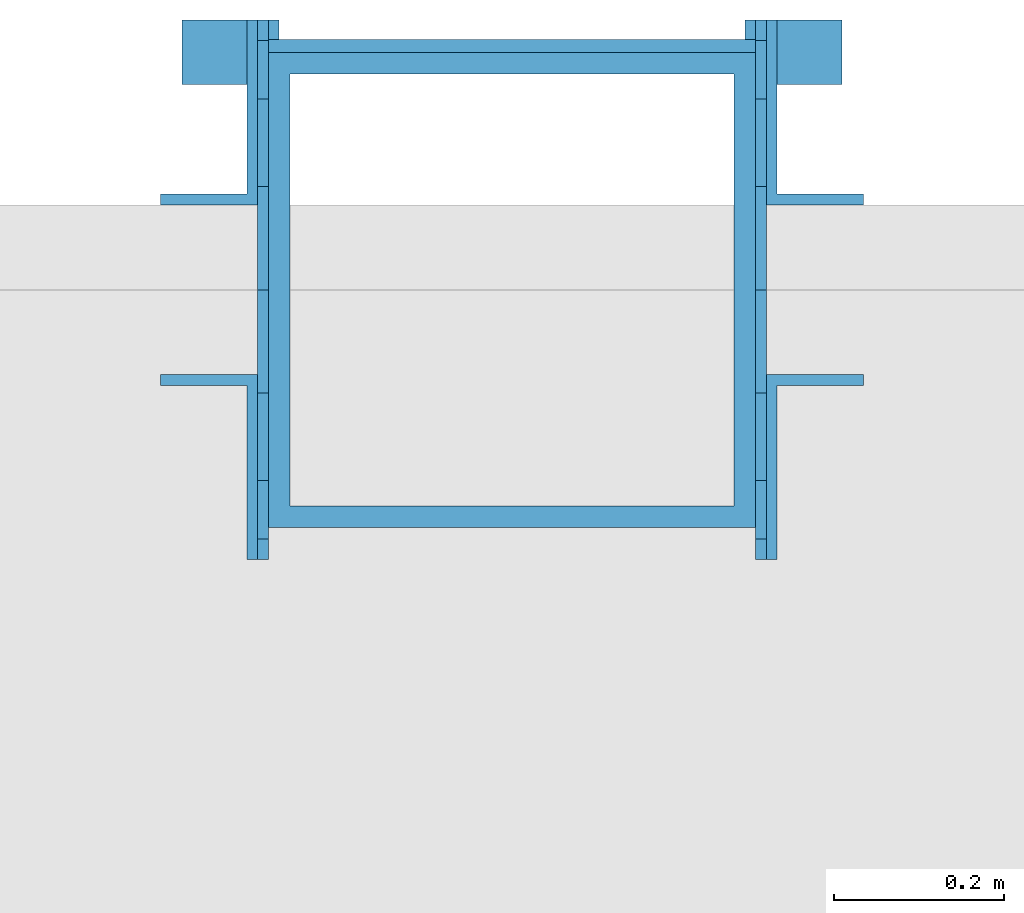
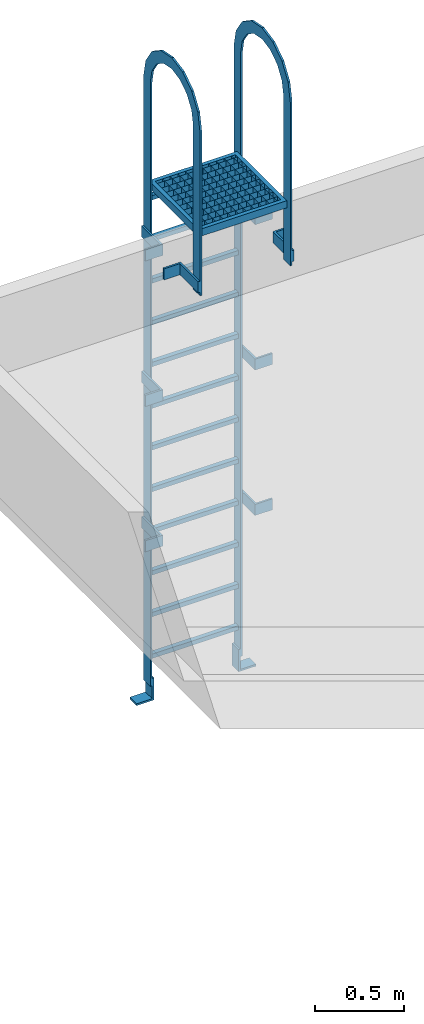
# One storey, part 2 of 3: 1 discrete accessory.
"""IFC2X3 building model written with IfcOpenShell, lengths in millimetres."""

from ifc_helpers import new_model, entity, si_unit, converted_unit, derived_unit, money_unit, direction, frame, origin_with_axes, place, context, subcontext, project, spatial, open_shell, faceted_brep, surface_model, type_object, element, save


model = new_model("IFC2X3")

# Units and contexts
model_context = context("Model", 3, precision=0.01, world=origin_with_axes(), true_north=direction((0.0, 1.0)))
body_context = subcontext(model_context, "Body", "Model", "MODEL_VIEW")
ifc_project = project(units=[si_unit("LENGTHUNIT", "METRE", prefix="MILLI"), si_unit("AREAUNIT", "SQUARE_METRE"), si_unit("VOLUMEUNIT", "CUBIC_METRE"), converted_unit("PLANEANGLEUNIT", "DEGREE", entity("IfcPlaneAngleMeasure", 0.0174532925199), si_unit("PLANEANGLEUNIT", "RADIAN"), dimensions=[0, 0, 0, 0, 0, 0, 0]), si_unit("SOLIDANGLEUNIT", "STERADIAN"), money_unit("EUR"), converted_unit("TIMEUNIT", "Year", entity("IfcTimeMeasure", 31556926.0), si_unit("TIMEUNIT", "SECOND"), dimensions=[0, 0, 1, 0, 0, 0, 0]), si_unit("MASSUNIT", "GRAM", prefix="KILO"), si_unit("THERMODYNAMICTEMPERATUREUNIT", "DEGREE_CELSIUS"), si_unit("LUMINOUSINTENSITYUNIT", "LUMEN"), si_unit("ENERGYUNIT", "JOULE", prefix="MEGA"), derived_unit("THERMALCONDUCTANCEUNIT", [(si_unit("POWERUNIT", "WATT"), 1), (si_unit("LENGTHUNIT", "METRE"), -1), (si_unit("THERMODYNAMICTEMPERATUREUNIT", "KELVIN"), -1)]), derived_unit("SPECIFICHEATCAPACITYUNIT", [(si_unit("ENERGYUNIT", "JOULE"), 1), (si_unit("MASSUNIT", "GRAM", prefix="KILO"), -1), (si_unit("THERMODYNAMICTEMPERATUREUNIT", "KELVIN"), -1)]), derived_unit("MASSDENSITYUNIT", [(si_unit("MASSUNIT", "GRAM", prefix="KILO"), 1), (si_unit("VOLUMEUNIT", "CUBIC_METRE"), -1)])], contexts=[model_context])

# Site, building, storey
site_placement = place(None, origin_with_axes())
site = spatial("IfcSite", under=ifc_project, at=site_placement, Name="Politse- ja Piirivalveameti ning Päästeameti ühishoone", CompositionType="ELEMENT")
building_placement = place(site_placement, origin_with_axes())
building = spatial("IfcBuilding", under=site, at=building_placement, Name="Politse- ja Piirivalveameti ning Päästeameti ühishoone", CompositionType="ELEMENT")
storey_placement = place(building_placement, frame((0.0, 0.0, 10600.0), z_axis=(0.0, 0.0, 1.0), x_axis=(1.0, 0.0, 0.0)))
storey = spatial("IfcBuildingStorey", under=building, at=storey_placement, Name="Korrus +9.900", CompositionType="ELEMENT", Elevation=10600.0)

# Discrete accessory
discrete_accessory_type = type_object("IfcDiscreteAccessoryType", Name="Vertical Ladder 23")
discrete_accessory_placement = place(storey_placement, frame((16736.1913113, 11880.0198611, -1912.37763967), z_axis=(0.0, 0.0, 1.0), x_axis=(-1.0, 0.0, 0.0)))
element("IfcDiscreteAccessory", 1, at=discrete_accessory_placement, inside=storey, type_object=discrete_accessory_type, Name="VÄLISREDEL 3", context=body_context, shape_type="SurfaceModel", body=[
    faceted_brep([(-287.3, -180.0, 3503.29822883), (287.3, -180.0, 3503.29822883), (287.3, -180.0, 3553.29822883), (-287.3, -180.0, 3553.29822883), (-287.3, 380.0, 3503.29822883), (287.3, 380.0, 3503.29822883), (-261.9, -154.6, 3503.29822883), (261.9, -154.6, 3503.29822883), (261.9, 354.6, 3503.29822883), (-261.9, 354.6, 3503.29822883), (287.3, 380.0, 3553.29822883), (-287.3, 380.0, 3553.29822883), (-261.9, -154.6, 3553.29822883), (-261.9, 354.6, 3553.29822883), (261.9, 354.6, 3553.29822883), (261.9, -154.6, 3553.29822883)], [[[0, 1, 2, 3]], [[0, 4, 5, 1], [6, 7, 8, 9]], [[1, 5, 10, 2]], [[3, 2, 10, 11], [12, 13, 14, 15]], [[4, 0, 3, 11]], [[5, 4, 11, 10]], [[7, 6, 12, 15]], [[8, 7, 15, 14]], [[9, 8, 14, 13]], [[6, 9, 13, 12]]]),
    surface_model("IfcShellBasedSurfaceModel", [(-261.9, -130.0, 3553.29822883), (-261.9, -130.0, 3503.29822883), (261.9, -130.0, 3503.29822883), (261.9, -130.0, 3553.29822883)], [open_shell([[[0, 1, 2, 3]]])]),
    surface_model("IfcShellBasedSurfaceModel", [(-261.9, -80.0, 3553.29822883), (-261.9, -80.0, 3503.29822883), (261.9, -80.0, 3503.29822883), (261.9, -80.0, 3553.29822883)], [open_shell([[[0, 1, 2, 3]]])]),
    surface_model("IfcShellBasedSurfaceModel", [(-261.9, -30.0, 3553.29822883), (-261.9, -30.0, 3503.29822883), (261.9, -30.0, 3503.29822883), (261.9, -30.0, 3553.29822883)], [open_shell([[[0, 1, 2, 3]]])]),
    surface_model("IfcShellBasedSurfaceModel", [(-261.9, 20.0, 3553.29822883), (-261.9, 20.0, 3503.29822883), (261.9, 20.0, 3503.29822883), (261.9, 20.0, 3553.29822883)], [open_shell([[[0, 1, 2, 3]]])]),
    surface_model("IfcShellBasedSurfaceModel", [(-261.9, 70.0, 3553.29822883), (-261.9, 70.0, 3503.29822883), (261.9, 70.0, 3503.29822883), (261.9, 70.0, 3553.29822883)], [open_shell([[[0, 1, 2, 3]]])]),
    surface_model("IfcShellBasedSurfaceModel", [(-261.9, 120.0, 3553.29822883), (-261.9, 120.0, 3503.29822883), (261.9, 120.0, 3503.29822883), (261.9, 120.0, 3553.29822883)], [open_shell([[[0, 1, 2, 3]]])]),
    surface_model("IfcShellBasedSurfaceModel", [(-261.9, 170.0, 3553.29822883), (-261.9, 170.0, 3503.29822883), (261.9, 170.0, 3503.29822883), (261.9, 170.0, 3553.29822883)], [open_shell([[[0, 1, 2, 3]]])]),
    surface_model("IfcShellBasedSurfaceModel", [(-261.9, 220.0, 3553.29822883), (-261.9, 220.0, 3503.29822883), (261.9, 220.0, 3503.29822883), (261.9, 220.0, 3553.29822883)], [open_shell([[[0, 1, 2, 3]]])]),
    surface_model("IfcShellBasedSurfaceModel", [(-261.9, 270.0, 3553.29822883), (-261.9, 270.0, 3503.29822883), (261.9, 270.0, 3503.29822883), (261.9, 270.0, 3553.29822883)], [open_shell([[[0, 1, 2, 3]]])]),
    surface_model("IfcShellBasedSurfaceModel", [(-261.9, 320.0, 3553.29822883), (-261.9, 320.0, 3503.29822883), (261.9, 320.0, 3503.29822883), (261.9, 320.0, 3553.29822883)], [open_shell([[[0, 1, 2, 3]]])]),
    surface_model("IfcShellBasedSurfaceModel", [(262.7, -154.6, 3553.29822883), (262.7, -154.6, 3503.29822883), (262.7, 354.6, 3503.29822883), (262.7, 354.6, 3553.29822883)], [open_shell([[[0, 1, 2, 3]]])]),
    surface_model("IfcShellBasedSurfaceModel", [(212.7, -154.6, 3553.29822883), (212.7, -154.6, 3503.29822883), (212.7, 354.6, 3503.29822883), (212.7, 354.6, 3553.29822883)], [open_shell([[[0, 1, 2, 3]]])]),
    surface_model("IfcShellBasedSurfaceModel", [(162.7, -154.6, 3553.29822883), (162.7, -154.6, 3503.29822883), (162.7, 354.6, 3503.29822883), (162.7, 354.6, 3553.29822883)], [open_shell([[[0, 1, 2, 3]]])]),
    surface_model("IfcShellBasedSurfaceModel", [(112.7, -154.6, 3553.29822883), (112.7, -154.6, 3503.29822883), (112.7, 354.6, 3503.29822883), (112.7, 354.6, 3553.29822883)], [open_shell([[[0, 1, 2, 3]]])]),
    surface_model("IfcShellBasedSurfaceModel", [(62.7, -154.6, 3553.29822883), (62.7, -154.6, 3503.29822883), (62.7, 354.6, 3503.29822883), (62.7, 354.6, 3553.29822883)], [open_shell([[[0, 1, 2, 3]]])]),
    surface_model("IfcShellBasedSurfaceModel", [(12.7, -154.6, 3553.29822883), (12.7, -154.6, 3503.29822883), (12.7, 354.6, 3503.29822883), (12.7, 354.6, 3553.29822883)], [open_shell([[[0, 1, 2, 3]]])]),
    surface_model("IfcShellBasedSurfaceModel", [(-37.3, -154.6, 3553.29822883), (-37.3, -154.6, 3503.29822883), (-37.3, 354.6, 3503.29822883), (-37.3, 354.6, 3553.29822883)], [open_shell([[[0, 1, 2, 3]]])]),
    surface_model("IfcShellBasedSurfaceModel", [(-87.3, -154.6, 3553.29822883), (-87.3, -154.6, 3503.29822883), (-87.3, 354.6, 3503.29822883), (-87.3, 354.6, 3553.29822883)], [open_shell([[[0, 1, 2, 3]]])]),
    surface_model("IfcShellBasedSurfaceModel", [(-137.3, -154.6, 3553.29822883), (-137.3, -154.6, 3503.29822883), (-137.3, 354.6, 3503.29822883), (-137.3, 354.6, 3553.29822883)], [open_shell([[[0, 1, 2, 3]]])]),
    surface_model("IfcShellBasedSurfaceModel", [(-187.3, -154.6, 3553.29822883), (-187.3, -154.6, 3503.29822883), (-187.3, 354.6, 3503.29822883), (-187.3, 354.6, 3553.29822883)], [open_shell([[[0, 1, 2, 3]]])]),
    surface_model("IfcShellBasedSurfaceModel", [(-237.3, -154.6, 3553.29822883), (-237.3, -154.6, 3503.29822883), (-237.3, 354.6, 3503.29822883), (-237.3, 354.6, 3553.29822883)], [open_shell([[[0, 1, 2, 3]]])]),
    faceted_brep([(-388.9, -141.9, 12.7), (-388.9, -141.9, 0.0), (-388.9, -218.1, 0.0), (-388.9, -218.1, 12.7), (-287.3, -141.9, 12.7), (-287.3, -141.9, 152.4), (-274.6, -141.9, 152.4), (-274.6, -141.9, 0.0), (-274.6, -218.1, 0.0), (-274.6, -218.1, 152.4), (-287.3, -218.1, 152.4), (-287.3, -218.1, 12.7)], [[[0, 1, 2, 3]], [[0, 4, 5, 6, 7, 1]], [[1, 7, 8, 2]], [[3, 2, 8, 9, 10, 11]], [[4, 0, 3, 11]], [[5, 4, 11, 10]], [[6, 5, 10, 9]], [[7, 6, 9, 8]]]),
    faceted_brep([(388.9, -141.9, 12.7), (388.9, -218.1, 12.7), (388.9, -218.1, 0.0), (388.9, -141.9, 0.0), (287.3, -141.9, 12.7), (287.3, -218.1, 12.7), (287.3, -218.1, 152.4), (274.6, -218.1, 152.4), (274.6, -218.1, 0.0), (274.6, -141.9, 0.0), (274.6, -141.9, 152.4), (287.3, -141.9, 152.4)], [[[0, 1, 2, 3]], [[4, 5, 1, 0]], [[1, 5, 6, 7, 8, 2]], [[3, 2, 8, 9]], [[0, 3, 9, 10, 11, 4]], [[11, 6, 5, 4]], [[10, 7, 6, 11]], [[9, 8, 7, 10]]]),
    faceted_brep([(-312.7, 212.7, 3151.69822883), (-312.7, 212.7, 3227.89822883), (-312.7, 418.1, 3227.89822883), (-312.7, 418.1, 3151.69822883), (-414.3, 212.7, 3151.69822883), (-414.3, 212.7, 3227.89822883), (-414.3, 200.0, 3227.89822883), (-300.0, 200.0, 3227.89822883), (-300.0, 418.1, 3227.89822883), (-300.0, 418.1, 3151.69822883), (-300.0, 200.0, 3151.69822883), (-414.3, 200.0, 3151.69822883)], [[[0, 1, 2, 3]], [[4, 5, 1, 0]], [[1, 5, 6, 7, 8, 2]], [[3, 2, 8, 9]], [[0, 3, 9, 10, 11, 4]], [[11, 6, 5, 4]], [[10, 7, 6, 11]], [[9, 8, 7, 10]]]),
    faceted_brep([(312.7, 212.7, 3151.69822883), (312.7, 418.1, 3151.69822883), (312.7, 418.1, 3227.89822883), (312.7, 212.7, 3227.89822883), (414.3, 212.7, 3151.69822883), (414.3, 200.0, 3151.69822883), (300.0, 200.0, 3151.69822883), (300.0, 418.1, 3151.69822883), (300.0, 418.1, 3227.89822883), (300.0, 200.0, 3227.89822883), (414.3, 200.0, 3227.89822883), (414.3, 212.7, 3227.89822883)], [[[0, 1, 2, 3]], [[0, 4, 5, 6, 7, 1]], [[1, 7, 8, 2]], [[3, 2, 8, 9, 10, 11]], [[4, 0, 3, 11]], [[5, 4, 11, 10]], [[6, 5, 10, 9]], [[7, 6, 9, 8]]]),
    faceted_brep([(-312.7, 212.7, 3151.69822883), (-312.7, 212.7, 3227.89822883), (-312.7, 418.1, 3227.89822883), (-312.7, 418.1, 3151.69822883), (-414.3, 212.7, 3151.69822883), (-414.3, 212.7, 3227.89822883), (-414.3, 200.0, 3227.89822883), (-300.0, 200.0, 3227.89822883), (-300.0, 418.1, 3227.89822883), (-300.0, 418.1, 3151.69822883), (-300.0, 200.0, 3151.69822883), (-414.3, 200.0, 3151.69822883)], [[[0, 1, 2, 3]], [[4, 5, 1, 0]], [[1, 5, 6, 7, 8, 2]], [[3, 2, 8, 9]], [[0, 3, 9, 10, 11, 4]], [[11, 6, 5, 4]], [[10, 7, 6, 11]], [[9, 8, 7, 10]]]),
    faceted_brep([(312.7, 212.7, 3151.69822883), (312.7, 418.1, 3151.69822883), (312.7, 418.1, 3227.89822883), (312.7, 212.7, 3227.89822883), (414.3, 212.7, 3151.69822883), (414.3, 200.0, 3151.69822883), (300.0, 200.0, 3151.69822883), (300.0, 418.1, 3151.69822883), (300.0, 418.1, 3227.89822883), (300.0, 200.0, 3227.89822883), (414.3, 200.0, 3227.89822883), (414.3, 212.7, 3227.89822883)], [[[0, 1, 2, 3]], [[0, 4, 5, 6, 7, 1]], [[1, 7, 8, 2]], [[3, 2, 8, 9, 10, 11]], [[4, 0, 3, 11]], [[5, 4, 11, 10]], [[6, 5, 10, 9]], [[7, 6, 9, 8]]]),
    faceted_brep([(-312.7, -12.7, 1152.16607628), (-312.7, -218.1, 1152.16607628), (-312.7, -218.1, 1228.36607628), (-312.7, -12.7, 1228.36607628), (-414.3, -12.7, 1152.16607628), (-414.3, 0.0, 1152.16607628), (-300.0, 0.0, 1152.16607628), (-300.0, -218.1, 1152.16607628), (-300.0, -218.1, 1228.36607628), (-300.0, 0.0, 1228.36607628), (-414.3, 0.0, 1228.36607628), (-414.3, -12.7, 1228.36607628)], [[[0, 1, 2, 3]], [[0, 4, 5, 6, 7, 1]], [[1, 7, 8, 2]], [[3, 2, 8, 9, 10, 11]], [[4, 0, 3, 11]], [[5, 4, 11, 10]], [[6, 5, 10, 9]], [[7, 6, 9, 8]]]),
    faceted_brep([(312.7, -12.7, 1152.16607628), (312.7, -12.7, 1228.36607628), (312.7, -218.1, 1228.36607628), (312.7, -218.1, 1152.16607628), (414.3, -12.7, 1152.16607628), (414.3, -12.7, 1228.36607628), (414.3, 0.0, 1228.36607628), (300.0, 0.0, 1228.36607628), (300.0, -218.1, 1228.36607628), (300.0, -218.1, 1152.16607628), (300.0, 0.0, 1152.16607628), (414.3, 0.0, 1152.16607628)], [[[0, 1, 2, 3]], [[4, 5, 1, 0]], [[1, 5, 6, 7, 8, 2]], [[3, 2, 8, 9]], [[0, 3, 9, 10, 11, 4]], [[11, 6, 5, 4]], [[10, 7, 6, 11]], [[9, 8, 7, 10]]]),
    faceted_brep([(-312.7, -12.7, 2151.93215256), (-312.7, -218.1, 2151.93215256), (-312.7, -218.1, 2228.13215256), (-312.7, -12.7, 2228.13215256), (-414.3, -12.7, 2151.93215256), (-414.3, 0.0, 2151.93215256), (-300.0, 0.0, 2151.93215256), (-300.0, -218.1, 2151.93215256), (-300.0, -218.1, 2228.13215256), (-300.0, 0.0, 2228.13215256), (-414.3, 0.0, 2228.13215256), (-414.3, -12.7, 2228.13215256)], [[[0, 1, 2, 3]], [[0, 4, 5, 6, 7, 1]], [[1, 7, 8, 2]], [[3, 2, 8, 9, 10, 11]], [[4, 0, 3, 11]], [[5, 4, 11, 10]], [[6, 5, 10, 9]], [[7, 6, 9, 8]]]),
    faceted_brep([(312.7, -12.7, 2151.93215256), (312.7, -12.7, 2228.13215256), (312.7, -218.1, 2228.13215256), (312.7, -218.1, 2151.93215256), (414.3, -12.7, 2151.93215256), (414.3, -12.7, 2228.13215256), (414.3, 0.0, 2228.13215256), (300.0, 0.0, 2228.13215256), (300.0, -218.1, 2228.13215256), (300.0, -218.1, 2151.93215256), (300.0, 0.0, 2151.93215256), (414.3, 0.0, 2151.93215256)], [[[0, 1, 2, 3]], [[4, 5, 1, 0]], [[1, 5, 6, 7, 8, 2]], [[3, 2, 8, 9]], [[0, 3, 9, 10, 11, 4]], [[11, 6, 5, 4]], [[10, 7, 6, 11]], [[9, 8, 7, 10]]]),
    faceted_brep([(-312.7, -12.7, 3151.69822883), (-312.7, -218.1, 3151.69822883), (-312.7, -218.1, 3227.89822883), (-312.7, -12.7, 3227.89822883), (-414.3, -12.7, 3151.69822883), (-414.3, 0.0, 3151.69822883), (-300.0, 0.0, 3151.69822883), (-300.0, -218.1, 3151.69822883), (-300.0, -218.1, 3227.89822883), (-300.0, 0.0, 3227.89822883), (-414.3, 0.0, 3227.89822883), (-414.3, -12.7, 3227.89822883)], [[[0, 1, 2, 3]], [[0, 4, 5, 6, 7, 1]], [[1, 7, 8, 2]], [[3, 2, 8, 9, 10, 11]], [[4, 0, 3, 11]], [[5, 4, 11, 10]], [[6, 5, 10, 9]], [[7, 6, 9, 8]]]),
    faceted_brep([(312.7, -12.7, 3151.69822883), (312.7, -12.7, 3227.89822883), (312.7, -218.1, 3227.89822883), (312.7, -218.1, 3151.69822883), (414.3, -12.7, 3151.69822883), (414.3, -12.7, 3227.89822883), (414.3, 0.0, 3227.89822883), (300.0, 0.0, 3227.89822883), (300.0, -218.1, 3227.89822883), (300.0, -218.1, 3151.69822883), (300.0, 0.0, 3151.69822883), (414.3, 0.0, 3151.69822883)], [[[0, 1, 2, 3]], [[4, 5, 1, 0]], [[1, 5, 6, 7, 8, 2]], [[3, 2, 8, 9]], [[0, 3, 9, 10, 11, 4]], [[11, 6, 5, 4]], [[10, 7, 6, 11]], [[9, 8, 7, 10]]]),
    faceted_brep([(-287.3, -141.9, 101.6), (-287.3, -218.1, 101.6), (-300.0, -218.1, 101.6), (-300.0, -141.9, 101.6), (-287.3, -141.9, 4253.29822883), (-287.3, -123.486458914, 4345.86935112), (-287.3, -71.049130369, 4424.3473592), (-287.3, 7.42887771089, 4476.78468775), (-287.3, 100.0, 4495.19822883), (-287.3, 192.571122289, 4476.78468775), (-287.3, 271.049130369, 4424.3473592), (-287.3, 323.486458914, 4345.86935112), (-287.3, 341.9, 4253.29822883), (-287.3, 341.9, 3126.29822883), (-287.3, 418.1, 3126.29822883), (-287.3, 418.1, 4253.29822883), (-287.3, 393.886079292, 4375.02982867), (-287.3, 324.930667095, 4478.22889593), (-287.3, 221.731599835, 4547.18430813), (-287.3, 100.0, 4571.39822883), (-287.3, -21.7315998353, 4547.18430813), (-287.3, -124.930667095, 4478.22889593), (-287.3, -193.886079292, 4375.02982867), (-287.3, -218.1, 4253.29822883), (-300.0, -218.1, 4253.29822883), (-300.0, -193.886079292, 4375.02982867), (-300.0, -124.930667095, 4478.22889593), (-300.0, -21.7315998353, 4547.18430813), (-300.0, 100.0, 4571.39822883), (-300.0, 221.731599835, 4547.18430813), (-300.0, 324.930667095, 4478.22889593), (-300.0, 393.886079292, 4375.02982867), (-300.0, 418.1, 4253.29822883), (-300.0, 418.1, 3126.29822883), (-300.0, 341.9, 3126.29822883), (-300.0, 341.9, 4253.29822883), (-300.0, 323.486458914, 4345.86935112), (-300.0, 271.049130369, 4424.3473592), (-300.0, 192.571122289, 4476.78468775), (-300.0, 100.0, 4495.19822883), (-300.0, 7.42887771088, 4476.78468775), (-300.0, -71.049130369, 4424.3473592), (-300.0, -123.486458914, 4345.86935112), (-300.0, -141.9, 4253.29822883)], [[[0, 1, 2, 3]], [[0, 4, 5, 6, 7, 8, 9, 10, 11, 12, 13, 14, 15, 16, 17, 18, 19, 20, 21, 22, 23, 1]], [[1, 23, 24, 2]], [[3, 2, 24, 25, 26, 27, 28, 29, 30, 31, 32, 33, 34, 35, 36, 37, 38, 39, 40, 41, 42, 43]], [[4, 0, 3, 43]], [[5, 4, 43, 42]], [[6, 5, 42, 41]], [[7, 6, 41, 40]], [[8, 7, 40, 39]], [[9, 8, 39, 38]], [[10, 9, 38, 37]], [[11, 10, 37, 36]], [[12, 11, 36, 35]], [[13, 12, 35, 34]], [[14, 13, 34, 33]], [[15, 14, 33, 32]], [[16, 15, 32, 31]], [[17, 16, 31, 30]], [[18, 17, 30, 29]], [[19, 18, 29, 28]], [[20, 19, 28, 27]], [[21, 20, 27, 26]], [[22, 21, 26, 25]], [[23, 22, 25, 24]]]),
    faceted_brep([(300.0, -141.9, 101.6), (300.0, -218.1, 101.6), (287.3, -218.1, 101.6), (287.3, -141.9, 101.6), (300.0, -141.9, 4253.29822883), (300.0, -123.486458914, 4345.86935112), (300.0, -71.049130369, 4424.3473592), (300.0, 7.42887771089, 4476.78468775), (300.0, 100.0, 4495.19822883), (300.0, 192.571122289, 4476.78468775), (300.0, 271.049130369, 4424.3473592), (300.0, 323.486458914, 4345.86935112), (300.0, 341.9, 4253.29822883), (300.0, 341.9, 3126.29822883), (300.0, 418.1, 3126.29822883), (300.0, 418.1, 4253.29822883), (300.0, 393.886079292, 4375.02982867), (300.0, 324.930667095, 4478.22889593), (300.0, 221.731599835, 4547.18430813), (300.0, 100.0, 4571.39822883), (300.0, -21.7315998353, 4547.18430813), (300.0, -124.930667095, 4478.22889593), (300.0, -193.886079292, 4375.02982867), (300.0, -218.1, 4253.29822883), (287.3, -218.1, 4253.29822883), (287.3, -193.886079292, 4375.02982867), (287.3, -124.930667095, 4478.22889593), (287.3, -21.7315998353, 4547.18430813), (287.3, 100.0, 4571.39822883), (287.3, 221.731599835, 4547.18430813), (287.3, 324.930667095, 4478.22889593), (287.3, 393.886079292, 4375.02982867), (287.3, 418.1, 4253.29822883), (287.3, 418.1, 3126.29822883), (287.3, 341.9, 3126.29822883), (287.3, 341.9, 4253.29822883), (287.3, 323.486458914, 4345.86935112), (287.3, 271.049130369, 4424.3473592), (287.3, 192.571122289, 4476.78468775), (287.3, 100.0, 4495.19822883), (287.3, 7.42887771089, 4476.78468775), (287.3, -71.049130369, 4424.3473592), (287.3, -123.486458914, 4345.86935112), (287.3, -141.9, 4253.29822883)], [[[0, 1, 2, 3]], [[0, 4, 5, 6, 7, 8, 9, 10, 11, 12, 13, 14, 15, 16, 17, 18, 19, 20, 21, 22, 23, 1]], [[1, 23, 24, 2]], [[3, 2, 24, 25, 26, 27, 28, 29, 30, 31, 32, 33, 34, 35, 36, 37, 38, 39, 40, 41, 42, 43]], [[4, 0, 3, 43]], [[5, 4, 43, 42]], [[6, 5, 42, 41]], [[7, 6, 41, 40]], [[8, 7, 40, 39]], [[9, 8, 39, 38]], [[10, 9, 38, 37]], [[11, 10, 37, 36]], [[12, 11, 36, 35]], [[13, 12, 35, 34]], [[14, 13, 34, 33]], [[15, 14, 33, 32]], [[16, 15, 32, 31]], [[17, 16, 31, 30]], [[18, 17, 30, 29]], [[19, 18, 29, 28]], [[20, 19, 28, 27]], [[21, 20, 27, 26]], [[22, 21, 26, 25]], [[23, 22, 25, 24]]]),
    faceted_brep([(287.3, -195.0, 270.0), (-287.3, -195.0, 270.0), (-287.3, -165.0, 270.0), (287.3, -165.0, 270.0), (287.3, -195.0, 300.0), (-287.3, -195.0, 300.0), (-287.3, -165.0, 300.0), (287.3, -165.0, 300.0)], [[[0, 1, 2, 3]], [[1, 0, 4, 5]], [[2, 1, 5, 6]], [[3, 2, 6, 7]], [[0, 3, 7, 4]], [[5, 4, 7, 6]]]),
    faceted_brep([(287.3, -195.0, 556.663475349), (-287.3, -195.0, 556.663475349), (-287.3, -165.0, 556.663475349), (287.3, -165.0, 556.663475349), (287.3, -195.0, 586.663475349), (-287.3, -195.0, 586.663475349), (-287.3, -165.0, 586.663475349), (287.3, -165.0, 586.663475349)], [[[0, 1, 2, 3]], [[1, 0, 4, 5]], [[2, 1, 5, 6]], [[3, 2, 6, 7]], [[0, 3, 7, 4]], [[5, 4, 7, 6]]]),
    faceted_brep([(287.3, -195.0, 843.326950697), (-287.3, -195.0, 843.326950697), (-287.3, -165.0, 843.326950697), (287.3, -165.0, 843.326950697), (287.3, -195.0, 873.326950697), (-287.3, -195.0, 873.326950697), (-287.3, -165.0, 873.326950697), (287.3, -165.0, 873.326950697)], [[[0, 1, 2, 3]], [[1, 0, 4, 5]], [[2, 1, 5, 6]], [[3, 2, 6, 7]], [[0, 3, 7, 4]], [[5, 4, 7, 6]]]),
    faceted_brep([(287.3, -195.0, 1129.99042605), (-287.3, -195.0, 1129.99042605), (-287.3, -165.0, 1129.99042605), (287.3, -165.0, 1129.99042605), (287.3, -195.0, 1159.99042605), (-287.3, -195.0, 1159.99042605), (-287.3, -165.0, 1159.99042605), (287.3, -165.0, 1159.99042605)], [[[0, 1, 2, 3]], [[1, 0, 4, 5]], [[2, 1, 5, 6]], [[3, 2, 6, 7]], [[0, 3, 7, 4]], [[5, 4, 7, 6]]]),
    faceted_brep([(287.3, -195.0, 1416.65390139), (-287.3, -195.0, 1416.65390139), (-287.3, -165.0, 1416.65390139), (287.3, -165.0, 1416.65390139), (287.3, -195.0, 1446.65390139), (-287.3, -195.0, 1446.65390139), (-287.3, -165.0, 1446.65390139), (287.3, -165.0, 1446.65390139)], [[[0, 1, 2, 3]], [[1, 0, 4, 5]], [[2, 1, 5, 6]], [[3, 2, 6, 7]], [[0, 3, 7, 4]], [[5, 4, 7, 6]]]),
    faceted_brep([(287.3, -195.0, 1703.31737674), (-287.3, -195.0, 1703.31737674), (-287.3, -165.0, 1703.31737674), (287.3, -165.0, 1703.31737674), (287.3, -195.0, 1733.31737674), (-287.3, -195.0, 1733.31737674), (-287.3, -165.0, 1733.31737674), (287.3, -165.0, 1733.31737674)], [[[0, 1, 2, 3]], [[1, 0, 4, 5]], [[2, 1, 5, 6]], [[3, 2, 6, 7]], [[0, 3, 7, 4]], [[5, 4, 7, 6]]]),
    faceted_brep([(287.3, -195.0, 1989.98085209), (-287.3, -195.0, 1989.98085209), (-287.3, -165.0, 1989.98085209), (287.3, -165.0, 1989.98085209), (287.3, -195.0, 2019.98085209), (-287.3, -195.0, 2019.98085209), (-287.3, -165.0, 2019.98085209), (287.3, -165.0, 2019.98085209)], [[[0, 1, 2, 3]], [[1, 0, 4, 5]], [[2, 1, 5, 6]], [[3, 2, 6, 7]], [[0, 3, 7, 4]], [[5, 4, 7, 6]]]),
    faceted_brep([(287.3, -195.0, 2276.64432744), (-287.3, -195.0, 2276.64432744), (-287.3, -165.0, 2276.64432744), (287.3, -165.0, 2276.64432744), (287.3, -195.0, 2306.64432744), (-287.3, -195.0, 2306.64432744), (-287.3, -165.0, 2306.64432744), (287.3, -165.0, 2306.64432744)], [[[0, 1, 2, 3]], [[1, 0, 4, 5]], [[2, 1, 5, 6]], [[3, 2, 6, 7]], [[0, 3, 7, 4]], [[5, 4, 7, 6]]]),
    faceted_brep([(287.3, -195.0, 2563.30780279), (-287.3, -195.0, 2563.30780279), (-287.3, -165.0, 2563.30780279), (287.3, -165.0, 2563.30780279), (287.3, -195.0, 2593.30780279), (-287.3, -195.0, 2593.30780279), (-287.3, -165.0, 2593.30780279), (287.3, -165.0, 2593.30780279)], [[[0, 1, 2, 3]], [[1, 0, 4, 5]], [[2, 1, 5, 6]], [[3, 2, 6, 7]], [[0, 3, 7, 4]], [[5, 4, 7, 6]]]),
    faceted_brep([(287.3, -195.0, 2849.97127814), (-287.3, -195.0, 2849.97127814), (-287.3, -165.0, 2849.97127814), (287.3, -165.0, 2849.97127814), (287.3, -195.0, 2879.97127814), (-287.3, -195.0, 2879.97127814), (-287.3, -165.0, 2879.97127814), (287.3, -165.0, 2879.97127814)], [[[0, 1, 2, 3]], [[1, 0, 4, 5]], [[2, 1, 5, 6]], [[3, 2, 6, 7]], [[0, 3, 7, 4]], [[5, 4, 7, 6]]]),
    faceted_brep([(287.3, -195.0, 3136.63475349), (-287.3, -195.0, 3136.63475349), (-287.3, -165.0, 3136.63475349), (287.3, -165.0, 3136.63475349), (287.3, -195.0, 3166.63475349), (-287.3, -195.0, 3166.63475349), (-287.3, -165.0, 3166.63475349), (287.3, -165.0, 3166.63475349)], [[[0, 1, 2, 3]], [[1, 0, 4, 5]], [[2, 1, 5, 6]], [[3, 2, 6, 7]], [[0, 3, 7, 4]], [[5, 4, 7, 6]]]),
    faceted_brep([(287.3, -195.0, 3423.29822883), (-287.3, -195.0, 3423.29822883), (-287.3, -165.0, 3423.29822883), (287.3, -165.0, 3423.29822883), (287.3, -195.0, 3453.29822883), (-287.3, -195.0, 3453.29822883), (-287.3, -165.0, 3453.29822883), (287.3, -165.0, 3453.29822883)], [[[0, 1, 2, 3]], [[1, 0, 4, 5]], [[2, 1, 5, 6]], [[3, 2, 6, 7]], [[0, 3, 7, 4]], [[5, 4, 7, 6]]]),
])

save(model, "model.ifc")
